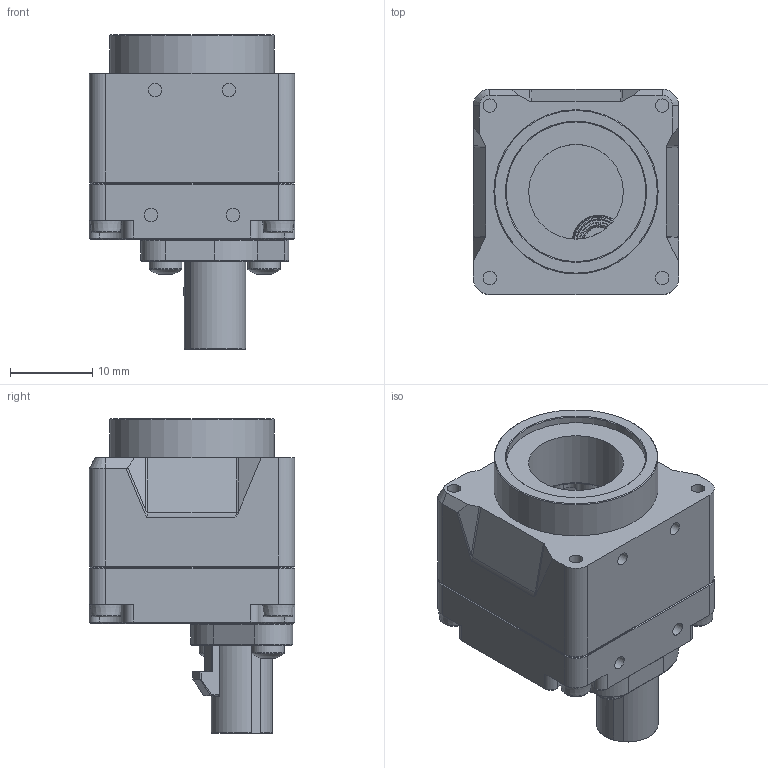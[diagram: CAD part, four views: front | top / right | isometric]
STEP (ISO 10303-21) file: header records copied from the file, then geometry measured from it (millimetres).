
FILE_DESCRIPTION(/* description */ ('STEP AP242 Edition 2','CAx-IF Rec.Pracs.---Representation and Presentation of Product Manufacturing Information (PMI)---4.0---2014-10-13','CAx-IF Rec.Pracs.---3D Tessellated Geometry---0.4---2014-09-14','2;1','CAx-IF Rec.Pracs.---User Defined Attributes---1.5---2016-08-15'),/* implementation_level */ '2;1');
FILE_NAME(/* name */ '6936e08351e24aad8b74caf1',/* time_stamp */ '2025-12-08T14:28:20Z',/* author */ (''),/* organization */ (''),/* preprocessor_version */ 'ST-DEVELOPER v20',/* originating_system */ 'ONSHAPE BY PTC INC, 1.207',/* authorisation */ ' ');
FILE_SCHEMA (('AP242_MANAGED_MODEL_BASED_3D_ENGINEERING_MIM_LF { 1 0 10303 442 3 1 4 }'));
Length unit declared in the file: metre
Products named in the file (7): ZED X One GS Compact; Camera Component - Body ZED X One - Rear; Hexalobular socket head cap screw ISO14579 M2x0.4x10; Hexalobular socket pan head screw ISO 14583 M2x5; Camera Component - Connector - FAKRA Plug; Camera Component - Seal - ZED X One; Camera Component - Body ZED X One - Front
Assembly tree (10 placements, depth 2):
  ZED X One GS Compact
    Camera Component - Body ZED X One - Rear
    Hexalobular socket head cap screw ISO14579 M2x0.4x10  x4
    Hexalobular socket pan head screw ISO 14583 M2x5  x2
    Camera Component - Connector - FAKRA Plug
    Camera Component - Seal - ZED X One
    Camera Component - Body ZED X One - Front
Bounding box: 25 x 25 x 38.27 mm (x, y, z)
Volume: 8007.1 mm3; surface area: 8924.8 mm2
Topology: 10 solids, 10 shells, 820 faces, 2096 edges, 1332 vertices
Faces by surface type: cylinder 321, plane 299, cone 149, torus 37, bspline 8, sphere 6
Full cylindrical faces by diameter (mm): 0.5 x1, 0.55 x1, 0.95 x3, 1.2 x1, 1.6 x2, 1.623 x10, 1.754 x6, 2 x6, 2.03 x1, 2.1 x4, 2.2 x1, 2.4 x2, 2.45 x1, 3.685 x1, 3.8 x1, 4 x2, 4.35 x1, 5.3 x1, 5.4 x1, 6.2 x1, 6.3 x1, 6.5 x1, 8.62 x1, 9.6 x1, 11.529 x1, 14 x1, 17 x1, 20 x1
Entity records: 22211 total; most frequent: CARTESIAN_POINT 4941, DIRECTION 3670, ORIENTED_EDGE 3410, EDGE_CURVE 1705, AXIS2_PLACEMENT_3D 1345, VERTEX_POINT 1135, LINE 980, VECTOR 980
